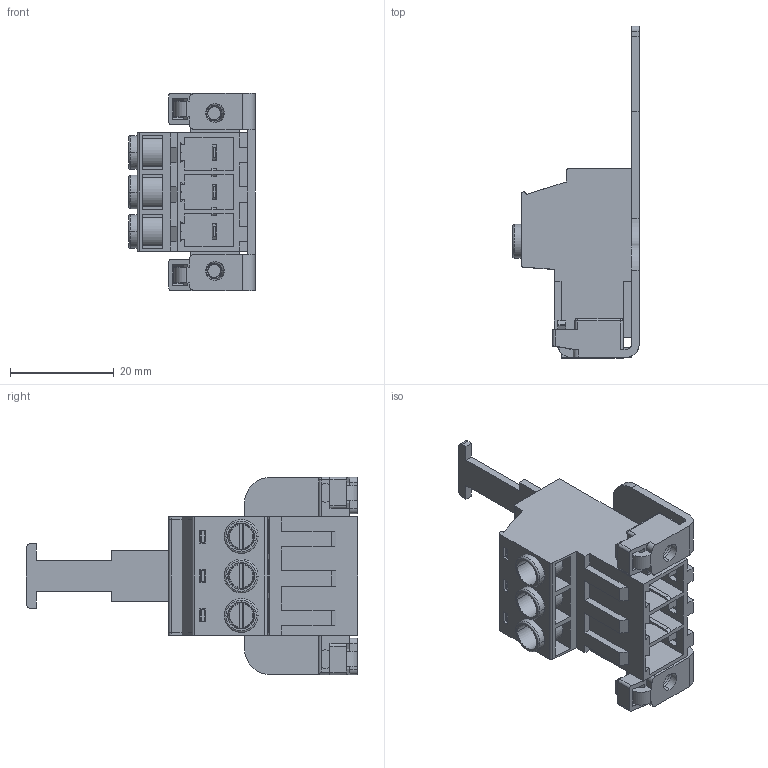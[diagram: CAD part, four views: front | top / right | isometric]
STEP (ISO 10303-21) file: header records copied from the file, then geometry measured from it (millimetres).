
FILE_DESCRIPTION((''),'2;1');
FILE_NAME('3PIN_SW0001','2019-05-14T',('zhenbing.lai'),(''),'CREO PARAMETRIC BY PTC INC, 2016260','CREO PARAMETRIC BY PTC INC, 2016260','');
FILE_SCHEMA(('CONFIG_CONTROL_DESIGN'));
Length unit declared in the file: millimetre
Products named in the file (1): 3PIN_SW0001
Bounding box: 24.4 x 64.1 x 38.1 mm (x, y, z)
Volume: 12275.4 mm3; surface area: 10884.5 mm2
Topology: 1 solids, 4 shells, 677 faces, 1884 edges, 1228 vertices
Faces by surface type: plane 506, cylinder 110, torus 25, cone 23, bspline 11, sphere 2
Entity records: 24146 total; most frequent: CARTESIAN_POINT 6822, ORIENTED_EDGE 3764, DIRECTION 3347, EDGE_CURVE 1882, VECTOR 1409, LINE 1409, VERTEX_POINT 1228, AXIS2_PLACEMENT_3D 969
